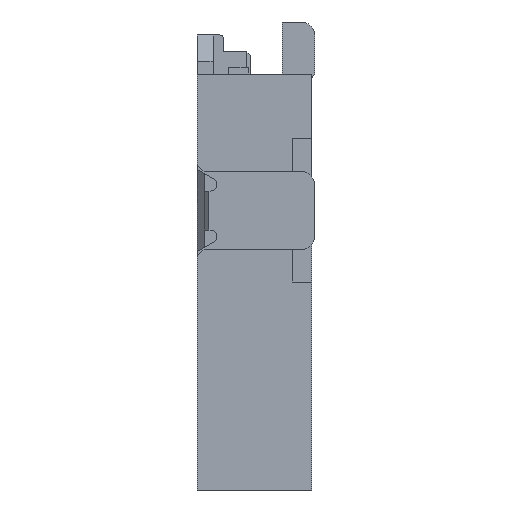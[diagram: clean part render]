
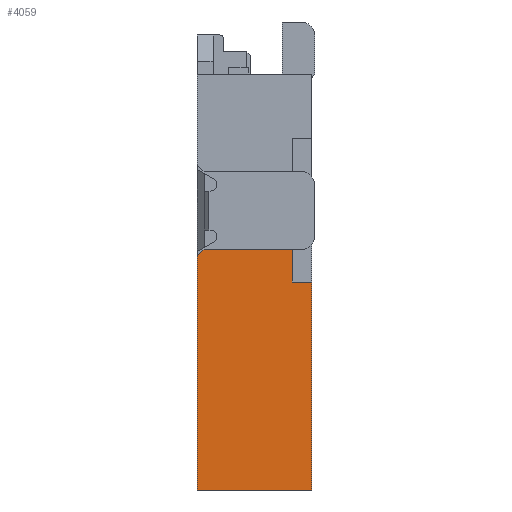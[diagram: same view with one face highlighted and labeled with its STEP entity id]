
A CAD part, left-side view. The second image highlights one B-rep face of the part: STEP entity #4059.
In plain terms, the highlighted planar face has unit normal (-1, 0, 0).
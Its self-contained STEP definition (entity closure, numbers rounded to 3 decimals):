
#2=DIRECTION('',(0.,0.707,-0.707));
#3=VECTOR('',#2,0.071);
#4=CARTESIAN_POINT('',(-2.25,0.83,1.85));
#5=LINE('',#4,#3);
#6=DIRECTION('',(0.,1.,0.));
#7=VECTOR('',#6,0.68);
#8=CARTESIAN_POINT('',(-2.25,0.15,1.85));
#9=LINE('',#8,#7);
#10=DIRECTION('',(0.,0.,1.));
#11=VECTOR('',#10,0.25);
#12=CARTESIAN_POINT('',(-2.25,0.15,1.6));
#13=LINE('',#12,#11);
#14=DIRECTION('',(0.,1.,0.));
#15=VECTOR('',#14,0.15);
#16=CARTESIAN_POINT('',(-2.25,0.,1.6));
#17=LINE('',#16,#15);
#18=DIRECTION('',(0.,0.,-1.));
#19=VECTOR('',#18,1.6);
#20=CARTESIAN_POINT('',(-2.25,0.,1.6));
#21=LINE('',#20,#19);
#22=DIRECTION('',(0.,1.,0.));
#23=VECTOR('',#22,0.88);
#24=CARTESIAN_POINT('',(-2.25,0.,0.));
#25=LINE('',#24,#23);
#26=DIRECTION('',(0.,0.,1.));
#27=VECTOR('',#26,1.8);
#28=CARTESIAN_POINT('',(-2.25,0.88,0.));
#29=LINE('',#28,#27);
#3070=CARTESIAN_POINT('',(-2.25,0.,0.));
#3071=CARTESIAN_POINT('',(-2.25,0.88,0.));
#3072=VERTEX_POINT('',#3070);
#3073=VERTEX_POINT('',#3071);
#3586=CARTESIAN_POINT('',(-2.25,0.15,1.6));
#3587=CARTESIAN_POINT('',(-2.25,0.15,1.85));
#3588=VERTEX_POINT('',#3586);
#3589=VERTEX_POINT('',#3587);
#3594=CARTESIAN_POINT('',(-2.25,0.,1.6));
#3595=VERTEX_POINT('',#3594);
#3694=CARTESIAN_POINT('',(-2.25,0.83,1.85));
#3695=CARTESIAN_POINT('',(-2.25,0.88,1.8));
#3696=VERTEX_POINT('',#3694);
#3697=VERTEX_POINT('',#3695);
#4038=CARTESIAN_POINT('',(-2.25,0.,0.));
#4039=DIRECTION('',(1.,0.,0.));
#4040=DIRECTION('',(0.,0.,-1.));
#4041=AXIS2_PLACEMENT_3D('',#4038,#4039,#4040);
#4042=PLANE('',#4041);
#4044=ORIENTED_EDGE('',*,*,#4043,.F.);
#4046=ORIENTED_EDGE('',*,*,#4045,.F.);
#4048=ORIENTED_EDGE('',*,*,#4047,.F.);
#4050=ORIENTED_EDGE('',*,*,#4049,.F.);
#4052=ORIENTED_EDGE('',*,*,#4051,.T.);
#4054=ORIENTED_EDGE('',*,*,#4053,.T.);
#4056=ORIENTED_EDGE('',*,*,#4055,.T.);
#4057=EDGE_LOOP('',(#4044,#4046,#4048,#4050,#4052,#4054,#4056));
#4058=FACE_OUTER_BOUND('',#4057,.F.);
#4059=ADVANCED_FACE('',(#4058),#4042,.F.);
#4043=EDGE_CURVE('',#3696,#3697,#5,.T.);
#4045=EDGE_CURVE('',#3589,#3696,#9,.T.);
#4047=EDGE_CURVE('',#3588,#3589,#13,.T.);
#4049=EDGE_CURVE('',#3595,#3588,#17,.T.);
#4051=EDGE_CURVE('',#3595,#3072,#21,.T.);
#4053=EDGE_CURVE('',#3072,#3073,#25,.T.);
#4055=EDGE_CURVE('',#3073,#3697,#29,.T.);
